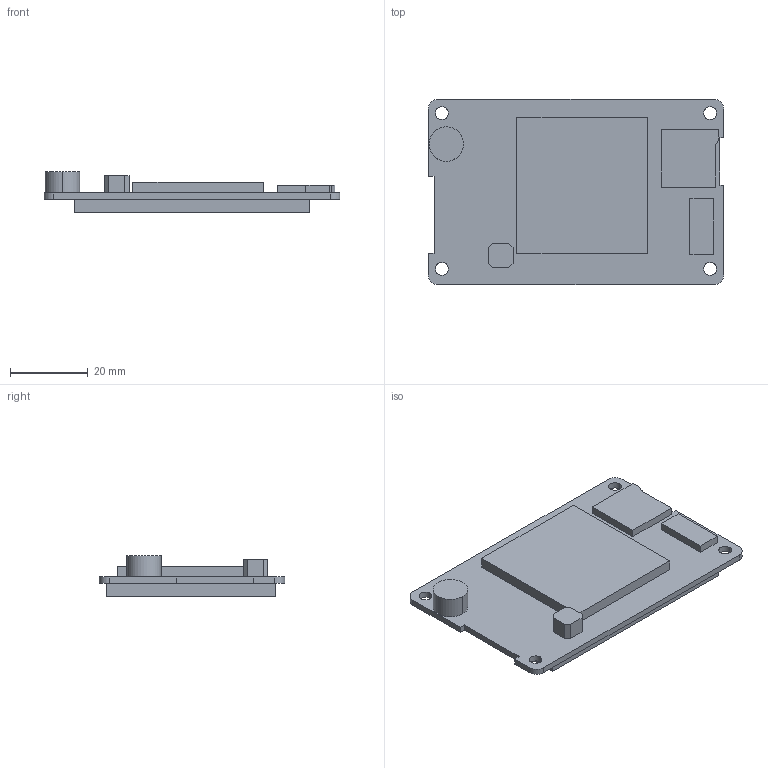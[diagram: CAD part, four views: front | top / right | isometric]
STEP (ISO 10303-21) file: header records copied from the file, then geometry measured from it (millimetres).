
FILE_DESCRIPTION((''),'2;1');
FILE_NAME('DMG32240C024-03WN-WTR-WTC','2022-05-23T',('Administrator'),(''),'PRO/ENGINEER BY PARAMETRIC TECHNOLOGY CORPORATION, 2008380','PRO/ENGINEER BY PARAMETRIC TECHNOLOGY CORPORATION, 2008380','');
FILE_SCHEMA(('CONFIG_CONTROL_DESIGN'));
Length unit declared in the file: millimetre
Products named in the file (1): DMG32240C024-03WN-WTR-WTC
Bounding box: 76.2 x 47.75 x 10.5 mm (x, y, z)
Volume: 18315.9 mm3; surface area: 9194.9 mm2
Topology: 1 solids, 1 shells, 65 faces, 8197 edges, 13014 vertices
Faces by surface type: plane 51, cylinder 14
Entity records: 45357 total; most frequent: DIRECTION 11526, CARTESIAN_POINT 8375, TRIMMED_CURVE 8029, VECTOR 5000, LINE 5000, AXIS2_PLACEMENT_3D 3263, CIRCLE 3197, ORIENTED_EDGE 336
